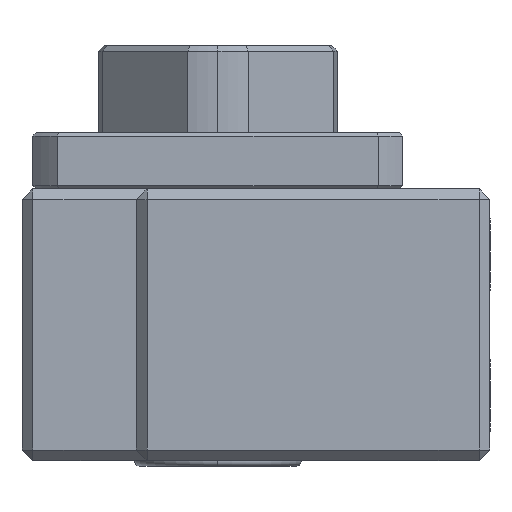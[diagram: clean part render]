
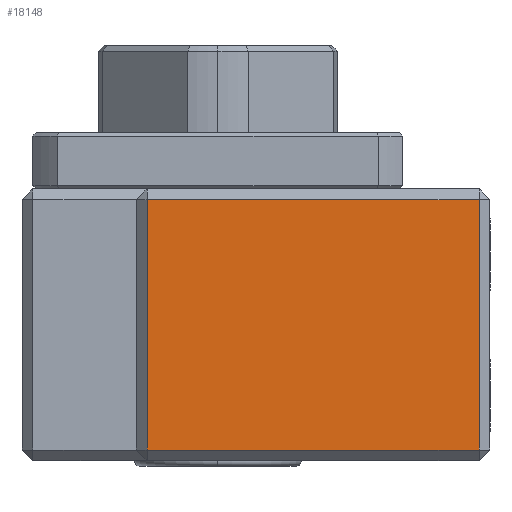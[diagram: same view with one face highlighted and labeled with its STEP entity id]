
A CAD part, left-side view. The second image highlights one B-rep face of the part: STEP entity #18148.
In plain terms, the highlighted planar face has unit normal (-1, 0, 0).
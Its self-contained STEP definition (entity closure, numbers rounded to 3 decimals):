
#566 = DIRECTION ( 'NONE',  ( 0., 0., 1. ) ) ;
#988 = EDGE_CURVE ( 'NONE', #16873, #7463, #17256, .T. ) ;
#1257 = CARTESIAN_POINT ( 'NONE',  ( -30., 1., 11.5 ) ) ;
#1653 = CARTESIAN_POINT ( 'NONE',  ( -30., 1., 11.5 ) ) ;
#1925 = VECTOR ( 'NONE', #566, 1000. ) ;
#1996 = CARTESIAN_POINT ( 'NONE',  ( -30., 31.5, 11.5 ) ) ;
#2905 = CARTESIAN_POINT ( 'NONE',  ( -30., 31.5, -11.5 ) ) ;
#3030 = LINE ( 'NONE', #1653, #14234 ) ;
#3506 = DIRECTION ( 'NONE',  ( 0., 1., 0. ) ) ;
#3618 = VECTOR ( 'NONE', #7855, 1000. ) ;
#3768 = DIRECTION ( 'NONE',  ( 0., 1., 0. ) ) ;
#5386 = PLANE ( 'NONE',  #14792 ) ;
#5535 = EDGE_LOOP ( 'NONE', ( #8743, #11820, #9386, #6293 ) ) ;
#5662 = EDGE_CURVE ( 'NONE', #7463, #8890, #10475, .T. ) ;
#5797 = VERTEX_POINT ( 'NONE', #1257 ) ;
#6293 = ORIENTED_EDGE ( 'NONE', *, *, #988, .F. ) ;
#6729 = FACE_OUTER_BOUND ( 'NONE', #5535, .T. ) ;
#7463 = VERTEX_POINT ( 'NONE', #2905 ) ;
#7855 = DIRECTION ( 'NONE',  ( 0., -1., 0. ) ) ;
#8453 = CARTESIAN_POINT ( 'NONE',  ( -30., 1., -11.5 ) ) ;
#8622 = VECTOR ( 'NONE', #3506, 1000. ) ;
#8743 = ORIENTED_EDGE ( 'NONE', *, *, #19131, .F. ) ;
#8890 = VERTEX_POINT ( 'NONE', #14538 ) ;
#9386 = ORIENTED_EDGE ( 'NONE', *, *, #5662, .F. ) ;
#10076 = LINE ( 'NONE', #1996, #3618 ) ;
#10475 = LINE ( 'NONE', #12490, #1925 ) ;
#11820 = ORIENTED_EDGE ( 'NONE', *, *, #17081, .F. ) ;
#12490 = CARTESIAN_POINT ( 'NONE',  ( -30., 31.5, -11.5 ) ) ;
#14234 = VECTOR ( 'NONE', #14998, 1000. ) ;
#14538 = CARTESIAN_POINT ( 'NONE',  ( -30., 31.5, 11.5 ) ) ;
#14792 = AXIS2_PLACEMENT_3D ( 'NONE', #8453, #18441, #3768 ) ;
#14998 = DIRECTION ( 'NONE',  ( 0., 0., -1. ) ) ;
#15826 = CARTESIAN_POINT ( 'NONE',  ( -30., 1., -11.5 ) ) ;
#16873 = VERTEX_POINT ( 'NONE', #18188 ) ;
#17081 = EDGE_CURVE ( 'NONE', #8890, #5797, #10076, .T. ) ;
#17256 = LINE ( 'NONE', #15826, #8622 ) ;
#18148 = ADVANCED_FACE ( 'NONE', ( #6729 ), #5386, .F. ) ;
#18188 = CARTESIAN_POINT ( 'NONE',  ( -30., 1., -11.5 ) ) ;
#18441 = DIRECTION ( 'NONE',  ( 1., 0., 0. ) ) ;
#19131 = EDGE_CURVE ( 'NONE', #5797, #16873, #3030, .T. ) ;
